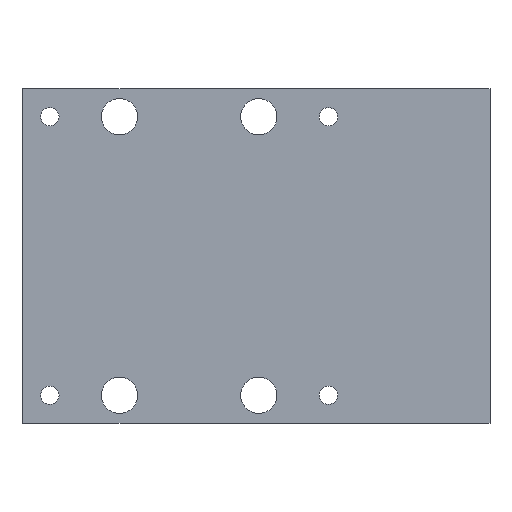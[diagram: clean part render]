
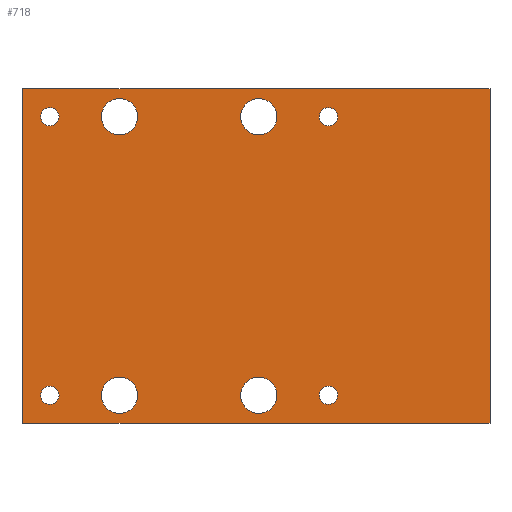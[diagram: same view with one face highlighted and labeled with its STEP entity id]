
A CAD part, left-side view. The second image highlights one B-rep face of the part: STEP entity #718.
In plain terms, the highlighted planar face has unit normal (-1, 0, 0).
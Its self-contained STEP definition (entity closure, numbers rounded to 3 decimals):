
#14 = DIRECTION ( 'NONE',  ( 0., 0., 1. ) ) ;
#19 = CARTESIAN_POINT ( 'NONE',  ( 0., 84., 30. ) ) ;
#40 = VERTEX_POINT ( 'NONE', #1373 ) ;
#49 = LINE ( 'NONE', #1022, #1455 ) ;
#66 = DIRECTION ( 'NONE',  ( 0., 0., 1. ) ) ;
#79 = EDGE_LOOP ( 'NONE', ( #1568 ) ) ;
#81 = DIRECTION ( 'NONE',  ( 0., 0., 1. ) ) ;
#87 = CARTESIAN_POINT ( 'NONE',  ( 0., 29., -23.35 ) ) ;
#89 = ORIENTED_EDGE ( 'NONE', *, *, #1669, .F. ) ;
#105 = DIRECTION ( 'NONE',  ( -1., 0., 0. ) ) ;
#109 = CARTESIAN_POINT ( 'NONE',  ( 0., 41.5, 25. ) ) ;
#135 = DIRECTION ( 'NONE',  ( -1., 0., 0. ) ) ;
#142 = FACE_OUTER_BOUND ( 'NONE', #781, .T. ) ;
#153 = LINE ( 'NONE', #935, #1578 ) ;
#162 = ORIENTED_EDGE ( 'NONE', *, *, #1251, .F. ) ;
#166 = CIRCLE ( 'NONE', #711, 3.25 ) ;
#182 = ORIENTED_EDGE ( 'NONE', *, *, #439, .F. ) ;
#191 = VERTEX_POINT ( 'NONE', #1591 ) ;
#193 = EDGE_CURVE ( 'NONE', #1157, #1157, #1598, .T. ) ;
#203 = EDGE_LOOP ( 'NONE', ( #1155 ) ) ;
#210 = DIRECTION ( 'NONE',  ( -1., 0., 0. ) ) ;
#211 = FACE_BOUND ( 'NONE', #856, .T. ) ;
#220 = CARTESIAN_POINT ( 'NONE',  ( 0., 41.5, 28.25 ) ) ;
#231 = CARTESIAN_POINT ( 'NONE',  ( 0., 0., 30. ) ) ;
#241 = CARTESIAN_POINT ( 'NONE',  ( 0., 41.5, -21.75 ) ) ;
#246 = EDGE_CURVE ( 'NONE', #191, #191, #1717, .T. ) ;
#253 = VECTOR ( 'NONE', #266, 1000. ) ;
#255 = FACE_BOUND ( 'NONE', #79, .T. ) ;
#266 = DIRECTION ( 'NONE',  ( 0., 0., -1. ) ) ;
#295 = ORIENTED_EDGE ( 'NONE', *, *, #1660, .F. ) ;
#302 = AXIS2_PLACEMENT_3D ( 'NONE', #1323, #482, #1329 ) ;
#308 = ORIENTED_EDGE ( 'NONE', *, *, #193, .F. ) ;
#310 = DIRECTION ( 'NONE',  ( 0., 1., 0. ) ) ;
#339 = DIRECTION ( 'NONE',  ( -1., 0., 0. ) ) ;
#345 = CARTESIAN_POINT ( 'NONE',  ( 0., 0., -30. ) ) ;
#394 = CIRCLE ( 'NONE', #1011, 1.65 ) ;
#408 = FACE_BOUND ( 'NONE', #203, .T. ) ;
#414 = DIRECTION ( 'NONE',  ( -1., 0., 0. ) ) ;
#439 = EDGE_CURVE ( 'NONE', #1613, #1613, #166, .T. ) ;
#447 = CARTESIAN_POINT ( 'NONE',  ( 0., 79., -25. ) ) ;
#460 = ORIENTED_EDGE ( 'NONE', *, *, #1599, .F. ) ;
#482 = DIRECTION ( 'NONE',  ( -1., 0., 0. ) ) ;
#487 = EDGE_LOOP ( 'NONE', ( #308 ) ) ;
#521 = DIRECTION ( 'NONE',  ( 0., 1., 0. ) ) ;
#561 = AXIS2_PLACEMENT_3D ( 'NONE', #1593, #339, #1576 ) ;
#606 = CARTESIAN_POINT ( 'NONE',  ( 0., 66.5, -25. ) ) ;
#643 = FACE_BOUND ( 'NONE', #1020, .T. ) ;
#660 = AXIS2_PLACEMENT_3D ( 'NONE', #964, #135, #1519 ) ;
#688 = AXIS2_PLACEMENT_3D ( 'NONE', #109, #105, #1202 ) ;
#698 = EDGE_CURVE ( 'NONE', #827, #827, #1316, .T. ) ;
#709 = VERTEX_POINT ( 'NONE', #918 ) ;
#711 = AXIS2_PLACEMENT_3D ( 'NONE', #1377, #414, #14 ) ;
#718 = ADVANCED_FACE ( 'NONE', ( #1183, #909, #854, #255, #643, #955, #408, #211, #142 ), #1159, .T. ) ;
#720 = VERTEX_POINT ( 'NONE', #345 ) ;
#758 = DIRECTION ( 'NONE',  ( -1., 0., 0. ) ) ;
#767 = CARTESIAN_POINT ( 'NONE',  ( 0., 0., 30. ) ) ;
#780 = VECTOR ( 'NONE', #1379, 1000. ) ;
#781 = EDGE_LOOP ( 'NONE', ( #1232, #460, #89, #1407 ) ) ;
#801 = CARTESIAN_POINT ( 'NONE',  ( 0., 66.5, 28.25 ) ) ;
#804 = EDGE_LOOP ( 'NONE', ( #295 ) ) ;
#813 = AXIS2_PLACEMENT_3D ( 'NONE', #1728, #1040, #912 ) ;
#827 = VERTEX_POINT ( 'NONE', #801 ) ;
#854 = FACE_BOUND ( 'NONE', #487, .T. ) ;
#856 = EDGE_LOOP ( 'NONE', ( #1518 ) ) ;
#867 = VERTEX_POINT ( 'NONE', #1073 ) ;
#899 = DIRECTION ( 'NONE',  ( -1., 0., 0. ) ) ;
#909 = FACE_BOUND ( 'NONE', #804, .T. ) ;
#912 = DIRECTION ( 'NONE',  ( 0., 0., 1. ) ) ;
#918 = CARTESIAN_POINT ( 'NONE',  ( 0., 66.5, -21.75 ) ) ;
#935 = CARTESIAN_POINT ( 'NONE',  ( 0., 0., -30. ) ) ;
#941 = VERTEX_POINT ( 'NONE', #87 ) ;
#947 = EDGE_LOOP ( 'NONE', ( #1167 ) ) ;
#955 = FACE_BOUND ( 'NONE', #947, .T. ) ;
#964 = CARTESIAN_POINT ( 'NONE',  ( 0., 29., -25. ) ) ;
#983 = EDGE_LOOP ( 'NONE', ( #162 ) ) ;
#1011 = AXIS2_PLACEMENT_3D ( 'NONE', #447, #758, #66 ) ;
#1020 = EDGE_LOOP ( 'NONE', ( #182 ) ) ;
#1022 = CARTESIAN_POINT ( 'NONE',  ( 0., 0., 30. ) ) ;
#1039 = LINE ( 'NONE', #19, #253 ) ;
#1040 = DIRECTION ( 'NONE',  ( -1., 0., 0. ) ) ;
#1073 = CARTESIAN_POINT ( 'NONE',  ( 0., 79., -23.35 ) ) ;
#1081 = LINE ( 'NONE', #1089, #780 ) ;
#1089 = CARTESIAN_POINT ( 'NONE',  ( 0., 0., 30. ) ) ;
#1155 = ORIENTED_EDGE ( 'NONE', *, *, #698, .F. ) ;
#1157 = VERTEX_POINT ( 'NONE', #1341 ) ;
#1159 = PLANE ( 'NONE',  #1265 ) ;
#1162 = CIRCLE ( 'NONE', #660, 1.65 ) ;
#1167 = ORIENTED_EDGE ( 'NONE', *, *, #1584, .F. ) ;
#1174 = DIRECTION ( 'NONE',  ( 0., 0., 1. ) ) ;
#1183 = FACE_BOUND ( 'NONE', #983, .T. ) ;
#1202 = DIRECTION ( 'NONE',  ( 0., 0., 1. ) ) ;
#1232 = ORIENTED_EDGE ( 'NONE', *, *, #1758, .T. ) ;
#1251 = EDGE_CURVE ( 'NONE', #867, #867, #394, .T. ) ;
#1265 = AXIS2_PLACEMENT_3D ( 'NONE', #767, #210, #1174 ) ;
#1290 = EDGE_CURVE ( 'NONE', #1585, #1392, #49, .T. ) ;
#1316 = CIRCLE ( 'NONE', #561, 3.25 ) ;
#1323 = CARTESIAN_POINT ( 'NONE',  ( 0., 79., 25. ) ) ;
#1329 = DIRECTION ( 'NONE',  ( 0., 0., 1. ) ) ;
#1341 = CARTESIAN_POINT ( 'NONE',  ( 0., 29., 26.65 ) ) ;
#1373 = CARTESIAN_POINT ( 'NONE',  ( 0., 84., -30. ) ) ;
#1377 = CARTESIAN_POINT ( 'NONE',  ( 0., 41.5, -25. ) ) ;
#1379 = DIRECTION ( 'NONE',  ( 0., 0., -1. ) ) ;
#1386 = EDGE_CURVE ( 'NONE', #709, #709, #1580, .T. ) ;
#1392 = VERTEX_POINT ( 'NONE', #1565 ) ;
#1399 = VERTEX_POINT ( 'NONE', #220 ) ;
#1407 = ORIENTED_EDGE ( 'NONE', *, *, #1290, .T. ) ;
#1455 = VECTOR ( 'NONE', #310, 1000. ) ;
#1518 = ORIENTED_EDGE ( 'NONE', *, *, #1386, .F. ) ;
#1519 = DIRECTION ( 'NONE',  ( 0., 0., 1. ) ) ;
#1560 = AXIS2_PLACEMENT_3D ( 'NONE', #606, #899, #81 ) ;
#1565 = CARTESIAN_POINT ( 'NONE',  ( 0., 84., 30. ) ) ;
#1568 = ORIENTED_EDGE ( 'NONE', *, *, #246, .F. ) ;
#1576 = DIRECTION ( 'NONE',  ( 0., 0., 1. ) ) ;
#1578 = VECTOR ( 'NONE', #521, 1000. ) ;
#1580 = CIRCLE ( 'NONE', #1560, 3.25 ) ;
#1584 = EDGE_CURVE ( 'NONE', #1399, #1399, #1667, .T. ) ;
#1585 = VERTEX_POINT ( 'NONE', #231 ) ;
#1591 = CARTESIAN_POINT ( 'NONE',  ( 0., 79., 26.65 ) ) ;
#1593 = CARTESIAN_POINT ( 'NONE',  ( 0., 66.5, 25. ) ) ;
#1598 = CIRCLE ( 'NONE', #813, 1.65 ) ;
#1599 = EDGE_CURVE ( 'NONE', #720, #40, #153, .T. ) ;
#1613 = VERTEX_POINT ( 'NONE', #241 ) ;
#1660 = EDGE_CURVE ( 'NONE', #941, #941, #1162, .T. ) ;
#1667 = CIRCLE ( 'NONE', #688, 3.25 ) ;
#1669 = EDGE_CURVE ( 'NONE', #1585, #720, #1081, .T. ) ;
#1717 = CIRCLE ( 'NONE', #302, 1.65 ) ;
#1728 = CARTESIAN_POINT ( 'NONE',  ( 0., 29., 25. ) ) ;
#1758 = EDGE_CURVE ( 'NONE', #1392, #40, #1039, .T. ) ;
